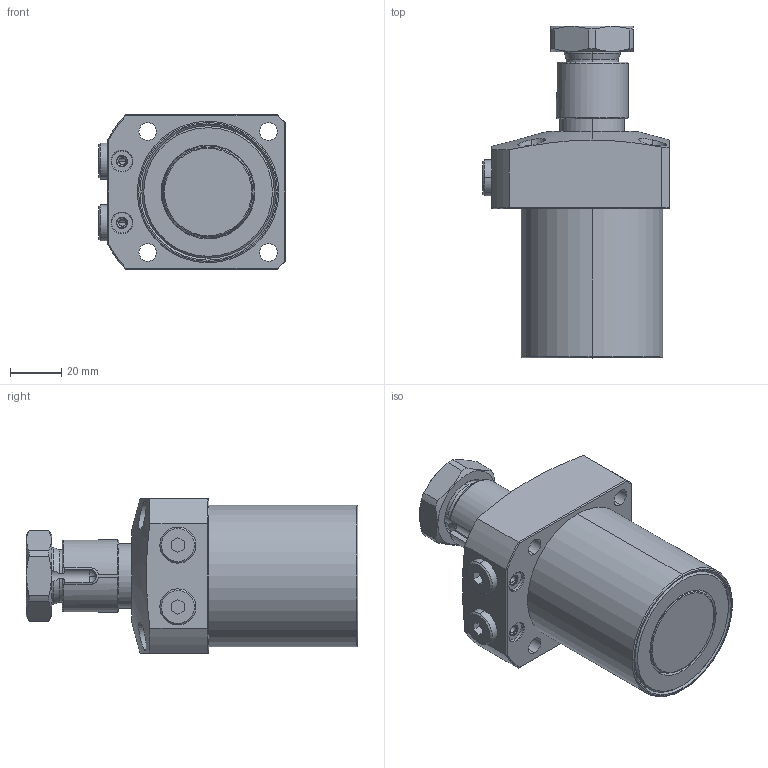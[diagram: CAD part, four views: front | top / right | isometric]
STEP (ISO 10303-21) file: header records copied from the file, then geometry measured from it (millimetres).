
FILE_DESCRIPTION (( 'STEP AP203' ), '1' );
FILE_NAME ('20450-CR.step', '2019-06-24T03:02:54', ( '微软用户' ), ( '微软中国' ), 'SwSTEP 2.0', 'SolidWorks 2014', '' );
FILE_SCHEMA (( 'CONFIG_CONTROL_DESIGN' ));
Length unit declared in the file: millimetre
Products named in the file (7): 20450-2^20450-CR; 20450-3^20450-CR; 20450-4^20450-CR; 20450-5^20450-CR; 20450-C-P-4^20450-CR; 20450-CR; 20450-1^20450-CR
Assembly tree (7 placements, depth 2):
  20450-CR
    20450-1^20450-CR
    20450-2^20450-CR
    20450-3^20450-CR
    20450-4^20450-CR
    20450-5^20450-CR
    20450-C-P-4^20450-CR  x2
Bounding box: 72.5 x 129 x 60 mm (x, y, z)
Volume: 278114.5 mm3; surface area: 44101.1 mm2
Topology: 7 solids, 7 shells, 228 faces, 537 edges, 339 vertices
Faces by surface type: plane 78, cylinder 77, cone 53, torus 18, sphere 2
Entity records: 7812 total; most frequent: CARTESIAN_POINT 2051, DIRECTION 1089, ORIENTED_EDGE 1014, EDGE_CURVE 507, AXIS2_PLACEMENT_3D 445, VERTEX_POINT 321, EDGE_LOOP 246, CIRCLE 220
